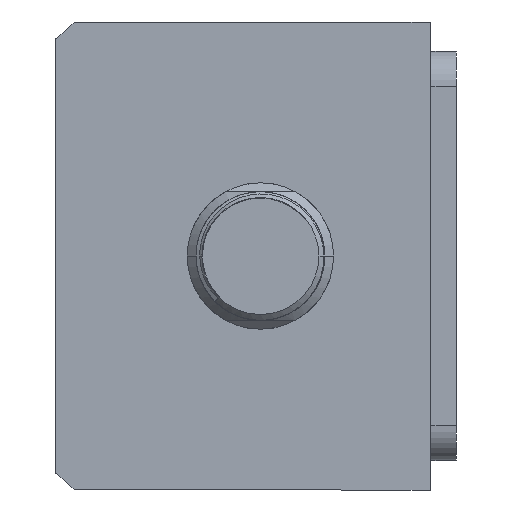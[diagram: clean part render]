
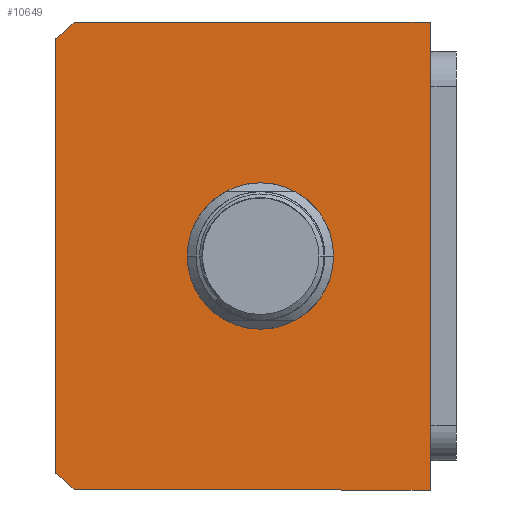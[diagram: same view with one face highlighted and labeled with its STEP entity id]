
A CAD part, front view. The second image highlights one B-rep face of the part: STEP entity #10649.
In plain terms, the highlighted planar face has unit normal (0, -1, 0) as drawn and (0, 0, -1) by its records, which use the part's own axes.
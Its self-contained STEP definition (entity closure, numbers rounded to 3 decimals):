
#210 = CARTESIAN_POINT ( 'NONE',  ( 0., 3., 0. ) ) ;
#622 = DIRECTION ( 'NONE',  ( 0., 0., 1. ) ) ;
#778 = CARTESIAN_POINT ( 'NONE',  ( -40., -28.639, 0. ) ) ;
#1110 = FACE_OUTER_BOUND ( 'NONE', #8068, .T. ) ;
#1544 = FACE_BOUND ( 'NONE', #11685, .T. ) ;
#1591 = DIRECTION ( 'NONE',  ( 1., 0., 0. ) ) ;
#1643 = CIRCLE ( 'NONE', #13155, 51. ) ;
#1755 = AXIS2_PLACEMENT_3D ( 'NONE', #3348, #622, #6110 ) ;
#1856 = CARTESIAN_POINT ( 'NONE',  ( 37.094, -32., 0. ) ) ;
#1923 = AXIS2_PLACEMENT_3D ( 'NONE', #2206, #11754, #3555 ) ;
#1981 = VERTEX_POINT ( 'NONE', #14797 ) ;
#2038 = VECTOR ( 'NONE', #5960, 1000. ) ;
#2206 = CARTESIAN_POINT ( 'NONE',  ( 0., 3., 0. ) ) ;
#2380 = VERTEX_POINT ( 'NONE', #14251 ) ;
#2425 = LINE ( 'NONE', #4066, #16122 ) ;
#2608 = ORIENTED_EDGE ( 'NONE', *, *, #9633, .F. ) ;
#3178 = CARTESIAN_POINT ( 'NONE',  ( 0., 3., 0. ) ) ;
#3348 = CARTESIAN_POINT ( 'NONE',  ( 0., 0., 0. ) ) ;
#3456 = CARTESIAN_POINT ( 'NONE',  ( -37.094, -32., 0. ) ) ;
#3555 = DIRECTION ( 'NONE',  ( 1., 0., 0. ) ) ;
#3580 = ORIENTED_EDGE ( 'NONE', *, *, #10586, .F. ) ;
#4066 = CARTESIAN_POINT ( 'NONE',  ( -40., 32., 0. ) ) ;
#4072 = DIRECTION ( 'NONE',  ( -1., 0., 0. ) ) ;
#4225 = CARTESIAN_POINT ( 'NONE',  ( 40., -28.639, 0. ) ) ;
#4554 = DIRECTION ( 'NONE',  ( 1., 0., 0. ) ) ;
#4589 = CARTESIAN_POINT ( 'NONE',  ( -40., -32., 0. ) ) ;
#5523 = EDGE_CURVE ( 'NONE', #16319, #11775, #1643, .T. ) ;
#5535 = ORIENTED_EDGE ( 'NONE', *, *, #5523, .F. ) ;
#5758 = DIRECTION ( 'NONE',  ( 0., 0., 1. ) ) ;
#5960 = DIRECTION ( 'NONE',  ( 1., 0., 0. ) ) ;
#6110 = DIRECTION ( 'NONE',  ( 1., 0., 0. ) ) ;
#6422 = EDGE_CURVE ( 'NONE', #6551, #1981, #8463, .T. ) ;
#6551 = VERTEX_POINT ( 'NONE', #15513 ) ;
#6749 = AXIS2_PLACEMENT_3D ( 'NONE', #13963, #5758, #15346 ) ;
#6837 = CARTESIAN_POINT ( 'NONE',  ( -40., 32., 0. ) ) ;
#7132 = EDGE_CURVE ( 'NONE', #8181, #2380, #8240, .T. ) ;
#7274 = DIRECTION ( 'NONE',  ( 0., 1., 0. ) ) ;
#7550 = ORIENTED_EDGE ( 'NONE', *, *, #6422, .T. ) ;
#7618 = VERTEX_POINT ( 'NONE', #3456 ) ;
#8068 = EDGE_LOOP ( 'NONE', ( #3580, #2608, #17712, #8836, #5535, #13075 ) ) ;
#8181 = VERTEX_POINT ( 'NONE', #9337 ) ;
#8240 = LINE ( 'NONE', #6837, #11433 ) ;
#8463 = CIRCLE ( 'NONE', #6749, 12.5 ) ;
#8836 = ORIENTED_EDGE ( 'NONE', *, *, #16235, .F. ) ;
#9337 = CARTESIAN_POINT ( 'NONE',  ( 40., 32., 0. ) ) ;
#9633 = EDGE_CURVE ( 'NONE', #2380, #16490, #2425, .T. ) ;
#9752 = LINE ( 'NONE', #4589, #2038 ) ;
#9793 = DIRECTION ( 'NONE',  ( 0., 0., 1. ) ) ;
#10183 = VECTOR ( 'NONE', #7274, 1000. ) ;
#10586 = EDGE_CURVE ( 'NONE', #16490, #7618, #15663, .T. ) ;
#10649 = ADVANCED_FACE ( 'NONE', ( #1544, #1110 ), #14309, .F. ) ;
#11146 = ORIENTED_EDGE ( 'NONE', *, *, #16524, .T. ) ;
#11433 = VECTOR ( 'NONE', #4072, 1000. ) ;
#11685 = EDGE_LOOP ( 'NONE', ( #11146, #7550 ) ) ;
#11754 = DIRECTION ( 'NONE',  ( 0., 0., 1. ) ) ;
#11775 = VERTEX_POINT ( 'NONE', #4225 ) ;
#12272 = DIRECTION ( 'NONE',  ( 0., -1., 0. ) ) ;
#12683 = CARTESIAN_POINT ( 'NONE',  ( 40., 32., 0. ) ) ;
#12773 = DIRECTION ( 'NONE',  ( 0., 0., 1. ) ) ;
#13075 = ORIENTED_EDGE ( 'NONE', *, *, #16299, .F. ) ;
#13155 = AXIS2_PLACEMENT_3D ( 'NONE', #210, #9793, #1591 ) ;
#13963 = CARTESIAN_POINT ( 'NONE',  ( 0., 3., 0. ) ) ;
#14251 = CARTESIAN_POINT ( 'NONE',  ( -40., 32., 0. ) ) ;
#14309 = PLANE ( 'NONE',  #1755 ) ;
#14797 = CARTESIAN_POINT ( 'NONE',  ( 12.5, 3., 0. ) ) ;
#14935 = AXIS2_PLACEMENT_3D ( 'NONE', #3178, #12773, #4554 ) ;
#15303 = CIRCLE ( 'NONE', #1923, 12.5 ) ;
#15346 = DIRECTION ( 'NONE',  ( 1., 0., 0. ) ) ;
#15513 = CARTESIAN_POINT ( 'NONE',  ( -12.5, 3., 0. ) ) ;
#15663 = CIRCLE ( 'NONE', #14935, 51. ) ;
#16122 = VECTOR ( 'NONE', #12272, 1000. ) ;
#16235 = EDGE_CURVE ( 'NONE', #11775, #8181, #17022, .T. ) ;
#16299 = EDGE_CURVE ( 'NONE', #7618, #16319, #9752, .T. ) ;
#16319 = VERTEX_POINT ( 'NONE', #1856 ) ;
#16490 = VERTEX_POINT ( 'NONE', #778 ) ;
#16524 = EDGE_CURVE ( 'NONE', #1981, #6551, #15303, .T. ) ;
#17022 = LINE ( 'NONE', #12683, #10183 ) ;
#17712 = ORIENTED_EDGE ( 'NONE', *, *, #7132, .F. ) ;
